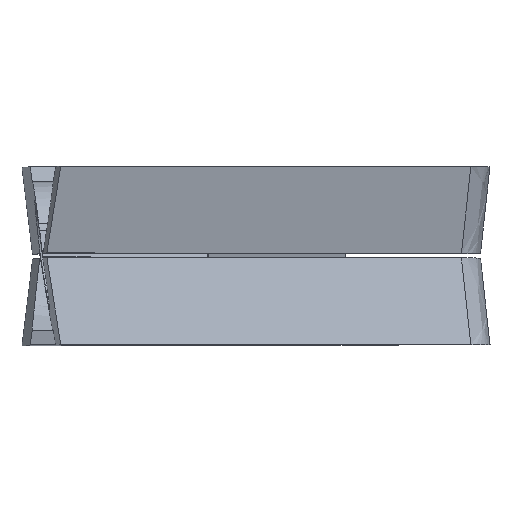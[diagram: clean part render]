
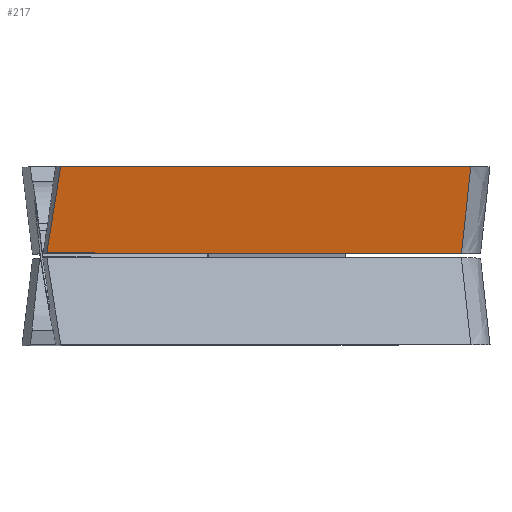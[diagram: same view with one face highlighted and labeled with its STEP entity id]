
A CAD part, top view. The second image highlights one B-rep face of the part: STEP entity #217.
In plain terms, the highlighted planar face has unit normal (0.514, -0.242, 0.823).
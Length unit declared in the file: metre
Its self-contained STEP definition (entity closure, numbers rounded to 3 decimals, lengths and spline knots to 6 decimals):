
#217=ADVANCED_FACE('',(#435),#436,.T.);
#435=FACE_OUTER_BOUND('',#6148,.T.);
#436=PLANE('',#6149);
#6148=EDGE_LOOP('',(#7836,#7837,#7838,#7839));
#6149=AXIS2_PLACEMENT_3D('',#7840,#7841,#7842);
#7836=ORIENTED_EDGE('',*,*,#8105,.F.);
#7837=ORIENTED_EDGE('',*,*,#8037,.T.);
#7838=ORIENTED_EDGE('',*,*,#8024,.F.);
#7839=ORIENTED_EDGE('',*,*,#8029,.F.);
#7840=CARTESIAN_POINT('',(0.094646,0.001,0.085154));
#7841=DIRECTION('',(0.514,-0.242,0.823));
#7842=DIRECTION('',(0.848,0.,-0.53));
#8024=EDGE_CURVE('',#8333,#8335,#8336,.T.);
#8029=EDGE_CURVE('',#8342,#8333,#8344,.T.);
#8037=EDGE_CURVE('',#8348,#8335,#8357,.T.);
#8105=EDGE_CURVE('',#8348,#8342,#8465,.F.);
#8333=VERTEX_POINT('',#9061);
#8335=VERTEX_POINT('',#9096);
#8336=LINE('',#9097,#9098);
#8342=VERTEX_POINT('',#9106);
#8344=B_SPLINE_CURVE_WITH_KNOTS('',3,(#9141,#9142,#9143,#9144,#9145,#9146,#9147),.UNSPECIFIED.,.F.,.F.,(4,3,4),(0.0,0.02038,0.039177),.UNSPECIFIED.);
#8348=VERTEX_POINT('',#9154);
#8357=LINE('',#9167,#9168);
#8465=LINE('',#9566,#9567);
#9061=CARTESIAN_POINT('',(0.183775,0.001,0.02946));
#9096=CARTESIAN_POINT('',(0.002383,0.001,0.142807));
#9097=CARTESIAN_POINT('',(0.094646,0.001,0.085154));
#9098=VECTOR('',#9836,1.0);
#9106=CARTESIAN_POINT('',(0.187914,0.039,0.038046));
#9141=CARTESIAN_POINT('',(0.187914,0.039,0.038046));
#9142=CARTESIAN_POINT('',(0.187196,0.032411,0.036557));
#9143=CARTESIAN_POINT('',(0.186478,0.025821,0.035069));
#9144=CARTESIAN_POINT('',(0.185761,0.019232,0.03358));
#9145=CARTESIAN_POINT('',(0.185099,0.013155,0.032207));
#9146=CARTESIAN_POINT('',(0.184437,0.007077,0.030834));
#9147=CARTESIAN_POINT('',(0.183775,0.001,0.02946));
#9154=CARTESIAN_POINT('',(0.008454,0.039,0.150185));
#9167=CARTESIAN_POINT('',(-0.008904,-0.069647,0.129089));
#9168=VECTOR('',#9846,1.0);
#9566=CARTESIAN_POINT('',(0.099667,0.039,0.093189));
#9567=VECTOR('',#9893,1.0);
#9836=DIRECTION('',(-0.848,0.,0.53));
#9846=DIRECTION('',(-0.155,-0.97,-0.188));
#9893=DIRECTION('',(-0.848,0.,0.53));
